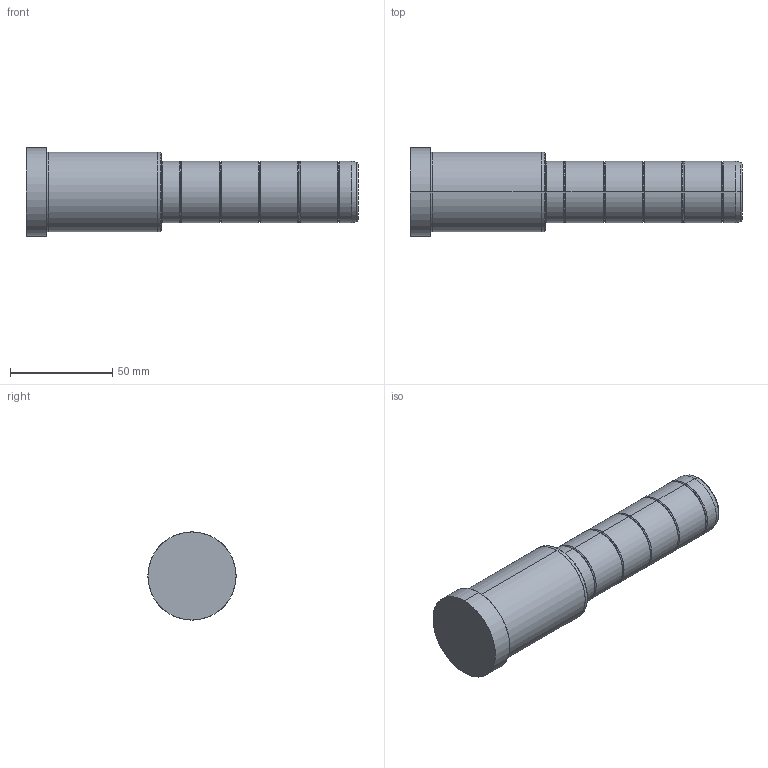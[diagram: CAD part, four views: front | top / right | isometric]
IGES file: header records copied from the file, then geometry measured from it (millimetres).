
Start section: SolidWorks IGES file using analytic representation for surfaces
Global section: file name: C:\Documents and Settings\kalite-mail\Desktop\IGS\D02\30\D02 - 30x66x96.IGS; native system: SolidWorks 2008; preprocessor: SolidWorks 2008; author: kalite-mail; date: 080617.092511; units: millimetre
Bounding box: 162 x 43 x 43 mm (x, y, z)
Surface area: 20275 mm2 (no closed solid volume)
Topology: 0 solids, 0 shells, 54 faces, 800 edges, 800 vertices
Faces by surface type: bspline 30, revolution 24
